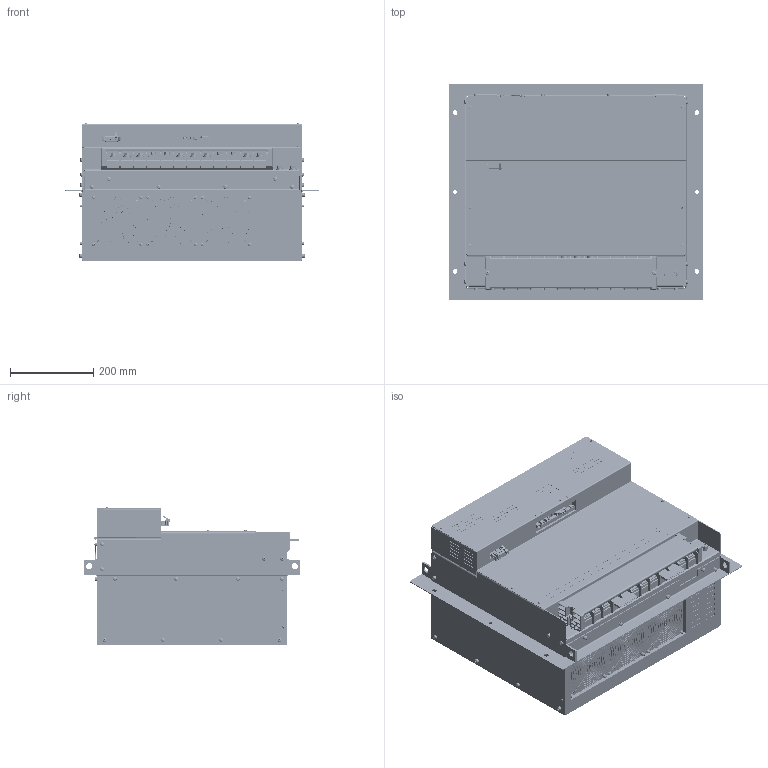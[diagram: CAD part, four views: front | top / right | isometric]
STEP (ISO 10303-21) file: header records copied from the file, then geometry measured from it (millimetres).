
FILE_DESCRIPTION (( 'STEP AP203' ), '1' );
FILE_NAME ('NCR-HE3_753#SE-85930.STEP', '2021-07-13T05:34:10', ( '' ), ( '' ), 'SwSTEP 2.0', 'SolidWorks 2018', '' );
FILE_SCHEMA (( 'CONFIG_CONTROL_DESIGN' ));
Products named in the file (1): NCR-HE3_753#SE-85930
Bounding box: 610 x 520 x 332.95 mm (x, y, z)
Volume: 68510340.7 mm3; surface area: 1947304.5 mm2
Topology: 4 solids, 41 shells, 19411 faces, 53477 edges, 34579 vertices
Faces by surface type: plane 12743, cylinder 3141, bspline 1894, cone 1191, torus 310, sphere 132
Entity records: 680874 total; most frequent: CARTESIAN_POINT 192263, ORIENTED_EDGE 106682, DIRECTION 94457, EDGE_CURVE 53341, LINE 36433, VECTOR 36433, VERTEX_POINT 34579, AXIS2_PLACEMENT_3D 29012
